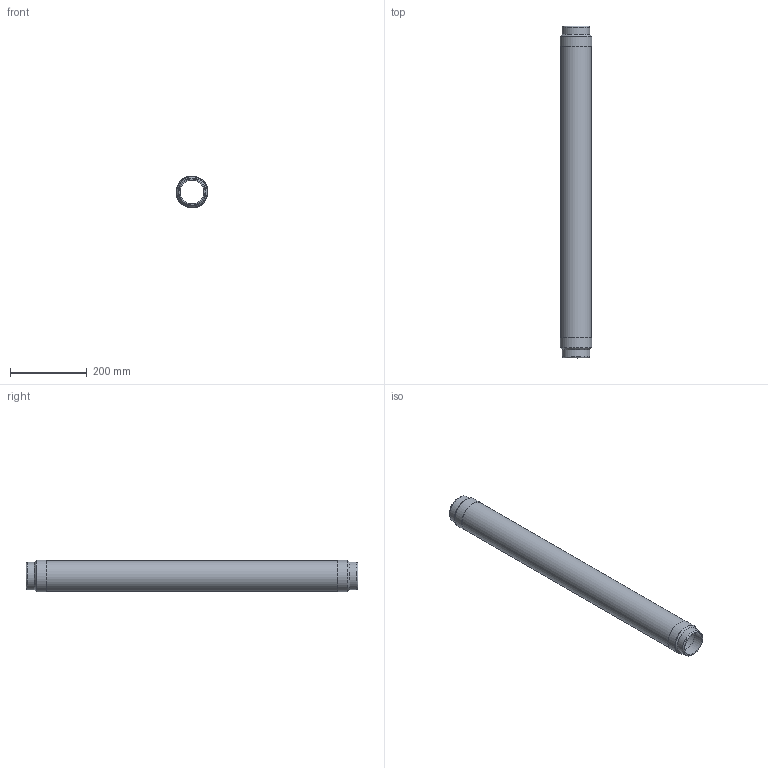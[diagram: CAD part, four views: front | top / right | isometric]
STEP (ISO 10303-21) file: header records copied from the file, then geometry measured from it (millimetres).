
FILE_DESCRIPTION(/* description */ (''),/* implementation_level */ '2;1');
FILE_NAME(/* name */ 'C:\001_Work\Designs\CSAWN\CSAWN-2.5x34.125.stp',/* time_stamp */ '2016-06-04T18:28:40-04:00',/* author */ ('rramoutar'),/* organization */ ('Mason Industries Inc.'),/* preprocessor_version */ 'ST-DEVELOPER v15.6',/* originating_system */ 'Autodesk Inventor 2015',/* authorisation */ '');
FILE_SCHEMA (('CONFIG_CONTROL_DESIGN'));
Length unit declared in the file: inch
Products named in the file (1): CSAWN-2.5x34.125
Bounding box: 82.94 x 866.77 x 82.94 mm (x, y, z)
Volume: 162240.6 mm3; surface area: 467159.7 mm2
Topology: 5 solids, 5 shells, 24 faces, 40 edges, 26 vertices
Faces by surface type: cylinder 10, plane 10, cone 4
Full cylindrical faces by diameter (mm): 62.713 x2, 73.025 x2, 79.756 x1, 80.569 x3, 82.95 x2
Entity records: 564 total; most frequent: DIRECTION 98, CARTESIAN_POINT 73, AXIS2_PLACEMENT_3D 49, EDGE_LOOP 48, ORIENTED_EDGE 48, STYLED_ITEM 29, FACE_BOUND 24, FACE_OUTER_BOUND 24
